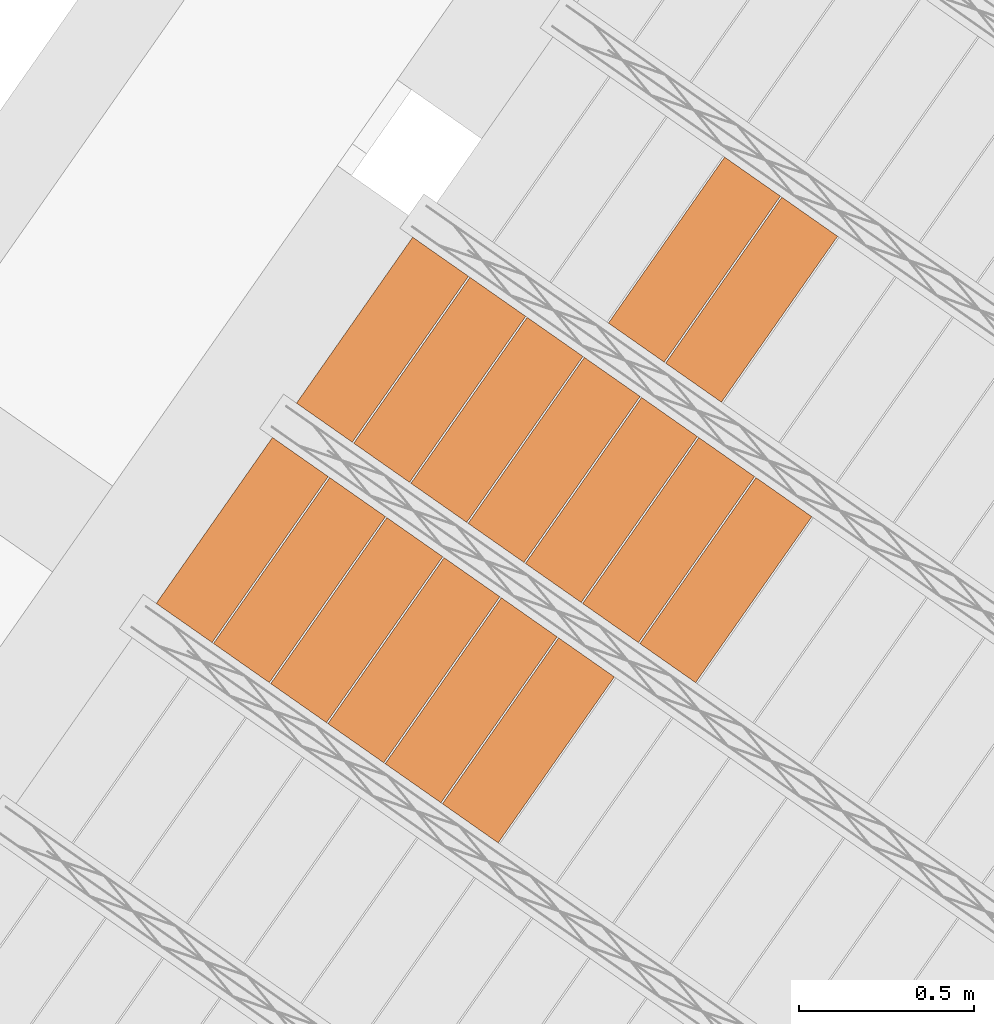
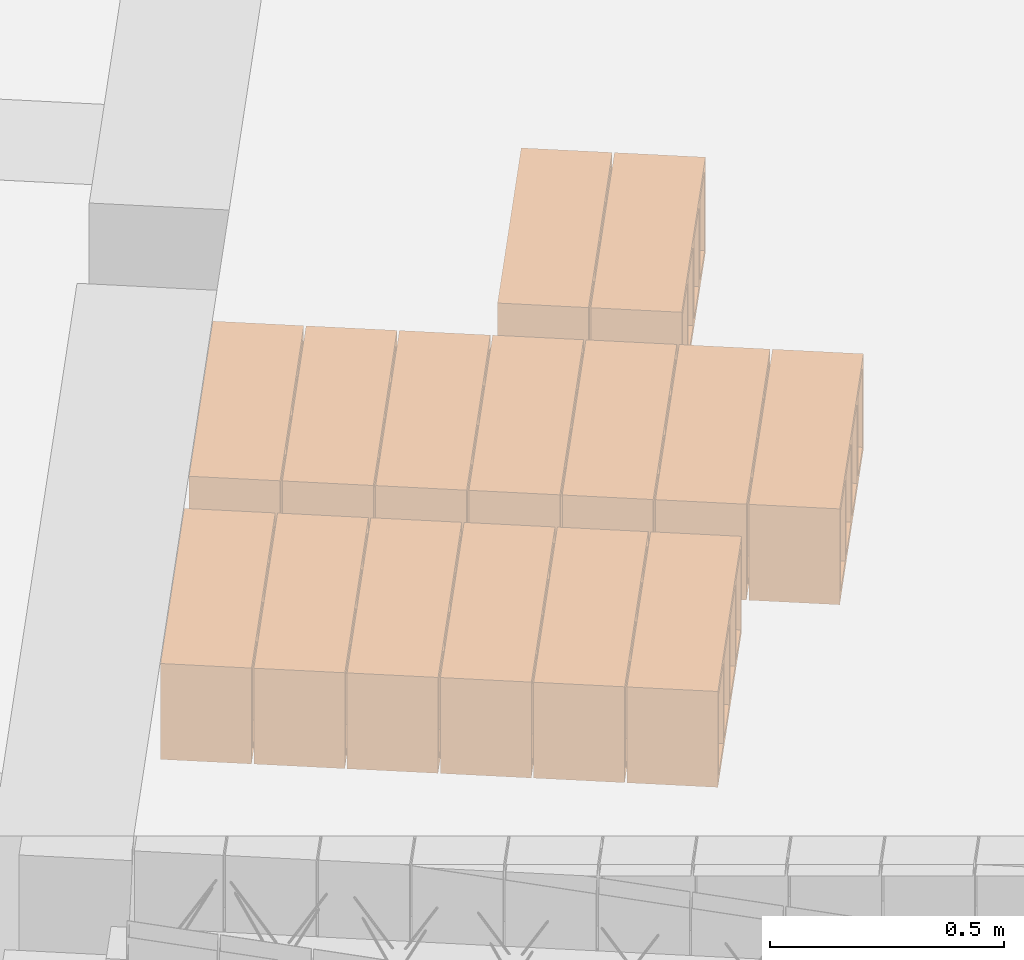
# One storey, part 36 of 46: 15 proxies.
"""IFC2X3 building model written with IfcOpenShell, lengths in metres."""

import ifcopenshell
import ifcopenshell.guid

model = None  # the IFC model being written
_history = None  # IfcOwnerHistory: only IFC2X3 demands one
_inside = {}  # id of a spatial element -> (the spatial element, [elements in it])
_under = {}  # id of a project, library or spatial element -> (it, [spatial elements below it])
_declared = {}  # id of a project -> (the project, [libraries it declares])
_typed = {}  # id of a type object -> (the type object, [elements of that type])
_made_of = {}  # id of a material, layer set ... -> (it, [elements and type objects made of it])


def new_model(schema):
    """Start an empty IFC model of exactly this schema.

    Asked for "IFC4X3", IfcOpenShell would pick the latest addendum, in which some entities
    have other attributes; the version numbers below select the first issue.
    IFC2X3 requires an IfcOwnerHistory on every rooted entity: one is made here for all.
    """
    global model, _history
    if schema == "IFC4X3":
        model = ifcopenshell.file(schema_version=(4, 3, 0, 0))
    else:
        model = ifcopenshell.file(schema=schema)
    _inside.clear()
    _under.clear()
    _declared.clear()
    _typed.clear()
    _made_of.clear()
    _history = None
    if model.schema == "IFC2X3":
        org = make("IfcOrganization", Name="unknown")
        user = make(
            "IfcPersonAndOrganization",
            ThePerson=make("IfcPerson", FamilyName="unknown"),
            TheOrganization=org,
        )
        app = make(
            "IfcApplication",
            ApplicationDeveloper=org,
            Version="unknown",
            ApplicationFullName="unknown",
            ApplicationIdentifier="unknown",
        )
        _history = make(
            "IfcOwnerHistory",
            OwningUser=user,
            OwningApplication=app,
            ChangeAction="ADDED",
            CreationDate=0,
        )
    return model


def make(cls, **values):
    """One entity of the class cls with the attributes given. An attribute that is None is left unset."""
    return model.create_entity(
        cls, **{name: value for name, value in values.items() if value is not None}
    )


def entity(cls, *values):
    """Any entity or typed value of the class cls, its attributes in the order of the schema. None: left unset."""
    e = model.create_entity(cls)
    for i, value in enumerate(values):
        if value is not None:
            e[i] = value
    return e


def rooted(cls, **values):
    """An entity with a GlobalId (a new one), such as an element, a storey or a relation."""
    return make(cls, GlobalId=ifcopenshell.guid.new(), OwnerHistory=_history, **values)


def si_unit(unit_type, name, prefix=None):
    """IfcSIUnit, for example si_unit("LENGTHUNIT", "METRE", prefix="MILLI")."""
    return make("IfcSIUnit", UnitType=unit_type, Prefix=prefix, Name=name)


def converted_unit(unit_type, name, factor, base, dimensions=None, offset=None):
    """IfcConversionBasedUnit, such as the inch: factor (a typed value) times the base unit."""
    return make(
        "IfcConversionBasedUnit"
        if offset is None
        else "IfcConversionBasedUnitWithOffset",
        ConversionOffset=offset,
        Dimensions=None
        if dimensions is None
        else entity("IfcDimensionalExponents", *dimensions),
        UnitType=unit_type,
        Name=name,
        ConversionFactor=make(
            "IfcMeasureWithUnit", ValueComponent=factor, UnitComponent=base
        ),
    )


def derived_unit(unit_type, elements):
    """IfcDerivedUnit: a product of units, each with its exponent."""
    return make(
        "IfcDerivedUnit",
        Elements=[
            make("IfcDerivedUnitElement", Unit=unit, Exponent=power)
            for unit, power in elements
        ],
        UnitType=unit_type,
    )


def assignment(units):
    """IfcUnitAssignment: the units of a project."""
    return None if units is None else make("IfcUnitAssignment", Units=units)


def point(xyz):
    """IfcCartesianPoint."""
    return None if xyz is None else make("IfcCartesianPoint", Coordinates=xyz)


def direction(xyz):
    """IfcDirection."""
    return None if xyz is None else make("IfcDirection", DirectionRatios=xyz)


def frame(location, z_axis=None, x_axis=None):
    """IfcAxis2Placement3D, a coordinate frame: its origin and axes. An axis left out is left unset."""
    return make(
        "IfcAxis2Placement3D",
        Location=point(location),
        Axis=direction(z_axis),
        RefDirection=direction(x_axis),
    )


def origin():
    """The frame at (0, 0, 0) with its axes left unset."""
    return frame((0.0, 0.0, 0.0))


def place(relative_to, where):
    """IfcLocalPlacement: puts the frame where relative to a parent placement (None: the world)."""
    return make(
        "IfcLocalPlacement", PlacementRelTo=relative_to, RelativePlacement=where
    )


def context(
    kind, dimensions, precision=None, world=None, true_north=None, identifier=None
):
    """IfcGeometricRepresentationContext, for example the 3D "Model" context."""
    return make(
        "IfcGeometricRepresentationContext",
        ContextIdentifier=identifier,
        ContextType=kind,
        CoordinateSpaceDimension=dimensions,
        Precision=precision,
        WorldCoordinateSystem=world,
        TrueNorth=true_north,
    )


def subcontext(parent, identifier, kind, view, scale=None):
    """IfcGeometricRepresentationSubContext, for example "Body" below "Model"."""
    return make(
        "IfcGeometricRepresentationSubContext",
        ContextIdentifier=identifier,
        ContextType=kind,
        ParentContext=parent,
        TargetScale=scale,
        TargetView=view,
    )


def project(units=None, contexts=None):
    """IfcProject with its units and contexts."""
    return rooted(
        "IfcProject",
        Name="project",
        RepresentationContexts=contexts,
        UnitsInContext=assignment(units),
    )


def spatial(cls, under=None, at=None, **own):
    """A site, building, storey or space (cls), placed at a placement, below another one or the project."""
    s = rooted(cls, ObjectPlacement=at, **own)
    if under is not None:
        _under.setdefault(under.id(), (under, []))[1].append(s)
    return s


def polyline(points):
    """IfcPolyline through the points."""
    return make("IfcPolyline", Points=[point(p) for p in points])


def outline(outer, holes=None, kind="AREA"):
    """IfcArbitraryClosedProfileDef: a profile drawn as a closed curve; with holes, ...WithVoids."""
    if holes is None:
        return make("IfcArbitraryClosedProfileDef", ProfileType=kind, OuterCurve=outer)
    return make(
        "IfcArbitraryProfileDefWithVoids",
        ProfileType=kind,
        OuterCurve=outer,
        InnerCurves=holes,
    )


def extrude(swept, where, along, depth):
    """IfcExtrudedAreaSolid: the profile swept, set in the frame where, extruded along a direction by depth."""
    return make(
        "IfcExtrudedAreaSolid",
        SweptArea=swept,
        Position=where,
        ExtrudedDirection=direction(along),
        Depth=depth,
    )


def shape(context_of_items, identifier, shape_type, items):
    """IfcShapeRepresentation: the items that make up one representation, for example the "Body"."""
    return make(
        "IfcShapeRepresentation",
        ContextOfItems=context_of_items,
        RepresentationIdentifier=identifier,
        RepresentationType=shape_type,
        Items=items,
    )


def made_of(thing, what):
    """Note that an element or type object is made of a material, layer set ...; save() writes the relation."""
    if what is not None:
        _made_of.setdefault(what.id(), (what, []))[1].append(thing)
    return thing


def type_object(cls, material=None, **own):
    """A type object (cls), such as IfcWallType, which elements share."""
    return made_of(rooted(cls, **own), material)


def element(
    cls,
    number,
    at=None,
    inside=None,
    cuts=None,
    type_object=None,
    material=None,
    context=None,
    identifier="Body",
    shape_type=None,
    held_by="IfcProductDefinitionShape",
    body=None,
    shapes=None,
    **own,
):
    """One element of the class cls, such as IfcWall. Its Tag is "e" and its number.

    at: its placement. inside: the storey or other place that contains it. cuts: it is an
    opening in that element (IfcRelVoidsElement). A single representation is given by context,
    identifier, shape_type and body (its items); several are given by shapes. held_by: the class
    of the entity that holds the representations. save() writes the other relations.
    """
    e = rooted(cls, Tag="e%d" % number, ObjectPlacement=at, **own)
    if body is not None:
        shapes = [shape(context, identifier, shape_type, body)]
    if shapes is not None:
        e.Representation = make(held_by, Representations=shapes)
    if inside is not None:
        _inside.setdefault(inside.id(), (inside, []))[1].append(e)
    if cuts is not None:
        rooted(
            "IfcRelVoidsElement", RelatingBuildingElement=cuts, RelatedOpeningElement=e
        )
    if type_object is not None:
        _typed.setdefault(type_object.id(), (type_object, []))[1].append(e)
    return made_of(e, material)


def aggregate(whole, parts):
    """IfcRelAggregates: a whole, such as a stair, and the parts it consists of."""
    return rooted("IfcRelAggregates", RelatingObject=whole, RelatedObjects=parts)


def save(model, path):
    """Write the relations noted so far, then the file.

    IfcRelAggregates (storeys below a building ...), IfcRelContainedInSpatialStructure (elements
    in a storey), IfcRelDefinesByType, IfcRelAssociatesMaterial and IfcRelDeclares: one each for
    every whole, place, type object, material and project.
    """
    for whole, parts in _under.values():
        aggregate(whole, parts)
    for where, things in _inside.values():
        rooted(
            "IfcRelContainedInSpatialStructure",
            RelatedElements=things,
            RelatingStructure=where,
        )
    for kind, things in _typed.values():
        rooted("IfcRelDefinesByType", RelatedObjects=things, RelatingType=kind)
    for what, things in _made_of.values():
        rooted("IfcRelAssociatesMaterial", RelatedObjects=things, RelatingMaterial=what)
    for by, libraries in _declared.values():
        rooted("IfcRelDeclares", RelatingContext=by, RelatedDefinitions=libraries)
    model.write(path)


model = new_model("IFC2X3")

# Units and contexts
model_context = context("Model", 3, precision=1e-05, world=origin(), true_north=direction((6.123031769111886e-17, 1.0)))
body_context = subcontext(model_context, "Body", "Model", "MODEL_VIEW")
ifc_project = project(units=[si_unit("LENGTHUNIT", "METRE"), si_unit("AREAUNIT", "SQUARE_METRE"), si_unit("VOLUMEUNIT", "CUBIC_METRE"), converted_unit("PLANEANGLEUNIT", "DEGREE", entity("IfcPlaneAngleMeasure", 0.017453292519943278), si_unit("PLANEANGLEUNIT", "RADIAN"), dimensions=[0, 0, 0, 0, 0, 0, 0]), si_unit("MASSUNIT", "GRAM", prefix="KILO"), derived_unit("MASSDENSITYUNIT", [(si_unit("MASSUNIT", "GRAM", prefix="KILO"), 1), (si_unit("LENGTHUNIT", "METRE"), -3)]), derived_unit("IONCONCENTRATIONUNIT", [(si_unit("MASSUNIT", "GRAM", prefix="KILO"), 1), (si_unit("LENGTHUNIT", "METRE"), -3)]), derived_unit("MOMENTOFINERTIAUNIT", [(si_unit("LENGTHUNIT", "METRE"), 4)]), si_unit("TIMEUNIT", "SECOND"), si_unit("FREQUENCYUNIT", "HERTZ"), si_unit("THERMODYNAMICTEMPERATUREUNIT", "DEGREE_CELSIUS"), derived_unit("THERMALTRANSMITTANCEUNIT", [(si_unit("MASSUNIT", "GRAM", prefix="KILO"), 1), (si_unit("THERMODYNAMICTEMPERATUREUNIT", "KELVIN"), -1), (si_unit("TIMEUNIT", "SECOND"), -3)]), derived_unit("THERMALCONDUCTANCEUNIT", [(si_unit("MASSUNIT", "GRAM", prefix="KILO"), 1), (si_unit("THERMODYNAMICTEMPERATUREUNIT", "KELVIN"), -1), (si_unit("TIMEUNIT", "SECOND"), -3), (si_unit("LENGTHUNIT", "METRE"), 1)]), derived_unit("VOLUMETRICFLOWRATEUNIT", [(si_unit("LENGTHUNIT", "METRE", prefix="DECI"), 3), (si_unit("TIMEUNIT", "SECOND"), -1)]), derived_unit("MASSFLOWRATEUNIT", [(si_unit("MASSUNIT", "GRAM", prefix="KILO"), 1), (si_unit("TIMEUNIT", "SECOND"), -1)]), derived_unit("ROTATIONALFREQUENCYUNIT", [(si_unit("TIMEUNIT", "SECOND"), -1)]), si_unit("ELECTRICCURRENTUNIT", "AMPERE"), si_unit("ELECTRICVOLTAGEUNIT", "VOLT"), si_unit("POWERUNIT", "WATT"), si_unit("FORCEUNIT", "NEWTON", prefix="KILO"), si_unit("ILLUMINANCEUNIT", "LUX"), si_unit("LUMINOUSFLUXUNIT", "LUMEN"), si_unit("LUMINOUSINTENSITYUNIT", "CANDELA"), si_unit("ENERGYUNIT", "JOULE"), derived_unit("USERDEFINED", [(si_unit("MASSUNIT", "GRAM", prefix="KILO"), -1), (si_unit("LENGTHUNIT", "METRE"), -2), (si_unit("TIMEUNIT", "SECOND"), 3), (si_unit("LUMINOUSFLUXUNIT", "LUMEN"), 1)]), derived_unit("USERDEFINED", [(si_unit("MASSUNIT", "GRAM", prefix="KILO"), 1), (si_unit("TIMEUNIT", "SECOND"), -3), (si_unit("LENGTHUNIT", "METRE"), 3), (si_unit("ELECTRICCURRENTUNIT", "AMPERE"), -2)]), derived_unit("SOUNDPOWERUNIT", [(si_unit("MASSUNIT", "GRAM", prefix="KILO"), 1), (si_unit("TIMEUNIT", "SECOND"), -3), (si_unit("LENGTHUNIT", "METRE"), 2)]), derived_unit("SOUNDPRESSUREUNIT", [(si_unit("MASSUNIT", "GRAM", prefix="KILO"), 1), (si_unit("LENGTHUNIT", "METRE"), -1), (si_unit("TIMEUNIT", "SECOND"), -2)]), derived_unit("LINEARVELOCITYUNIT", [(si_unit("LENGTHUNIT", "METRE"), 1), (si_unit("TIMEUNIT", "SECOND"), -1)]), si_unit("PRESSUREUNIT", "PASCAL"), derived_unit("USERDEFINED", [(si_unit("MASSUNIT", "GRAM", prefix="KILO"), 1), (si_unit("LENGTHUNIT", "METRE"), -2), (si_unit("TIMEUNIT", "SECOND"), -2)]), derived_unit("LINEARFORCEUNIT", [(si_unit("MASSUNIT", "GRAM", prefix="KILO"), 1), (si_unit("TIMEUNIT", "SECOND"), -2)]), derived_unit("PLANARFORCEUNIT", [(si_unit("MASSUNIT", "GRAM", prefix="KILO"), 1), (si_unit("LENGTHUNIT", "METRE"), -1), (si_unit("TIMEUNIT", "SECOND"), -2)]), derived_unit("SPECIFICHEATCAPACITYUNIT", [(si_unit("THERMODYNAMICTEMPERATUREUNIT", "KELVIN"), -1), (si_unit("LENGTHUNIT", "METRE"), 2), (si_unit("TIMEUNIT", "SECOND"), -2)]), derived_unit("HEATFLUXDENSITYUNIT", [(si_unit("MASSUNIT", "GRAM", prefix="KILO"), 1), (si_unit("TIMEUNIT", "SECOND"), -3)]), derived_unit("HEATINGVALUEUNIT", [(si_unit("LENGTHUNIT", "METRE"), 2), (si_unit("TIMEUNIT", "SECOND"), -2)]), derived_unit("VAPORPERMEABILITYUNIT", [(si_unit("LENGTHUNIT", "METRE"), -1), (si_unit("TIMEUNIT", "SECOND"), 1)]), derived_unit("DYNAMICVISCOSITYUNIT", [(si_unit("MASSUNIT", "GRAM", prefix="KILO"), 1), (si_unit("TIMEUNIT", "SECOND"), -1), (si_unit("LENGTHUNIT", "METRE"), -1)]), derived_unit("THERMALEXPANSIONCOEFFICIENTUNIT", [(si_unit("THERMODYNAMICTEMPERATUREUNIT", "KELVIN"), -1)]), derived_unit("MODULUSOFELASTICITYUNIT", [(si_unit("MASSUNIT", "GRAM", prefix="KILO"), 1), (si_unit("LENGTHUNIT", "METRE"), -1), (si_unit("TIMEUNIT", "SECOND"), -2)]), derived_unit("ISOTHERMALMOISTURECAPACITYUNIT", [(si_unit("MASSUNIT", "GRAM", prefix="KILO"), -1), (si_unit("LENGTHUNIT", "METRE"), 3)]), derived_unit("MOISTUREDIFFUSIVITYUNIT", [(si_unit("TIMEUNIT", "SECOND"), -1), (si_unit("LENGTHUNIT", "METRE"), 2)]), derived_unit("MASSPERLENGTHUNIT", [(si_unit("MASSUNIT", "GRAM", prefix="KILO"), 1), (si_unit("LENGTHUNIT", "METRE"), -1)]), derived_unit("THERMALRESISTANCEUNIT", [(si_unit("MASSUNIT", "GRAM", prefix="KILO"), -1), (si_unit("TIMEUNIT", "SECOND"), 3), (si_unit("THERMODYNAMICTEMPERATUREUNIT", "KELVIN"), 1)]), derived_unit("ACCELERATIONUNIT", [(si_unit("LENGTHUNIT", "METRE"), 1), (si_unit("TIMEUNIT", "SECOND"), -2)]), derived_unit("ANGULARVELOCITYUNIT", [(si_unit("TIMEUNIT", "SECOND"), -1), (si_unit("PLANEANGLEUNIT", "RADIAN"), 1)]), derived_unit("LINEARSTIFFNESSUNIT", [(si_unit("MASSUNIT", "GRAM", prefix="KILO"), 1), (si_unit("TIMEUNIT", "SECOND"), -2)]), derived_unit("WARPINGCONSTANTUNIT", [(si_unit("LENGTHUNIT", "METRE"), 6)]), derived_unit("LINEARMOMENTUNIT", [(si_unit("MASSUNIT", "GRAM", prefix="KILO"), 1), (si_unit("LENGTHUNIT", "METRE"), 1), (si_unit("TIMEUNIT", "SECOND"), -2)]), derived_unit("TORQUEUNIT", [(si_unit("MASSUNIT", "GRAM", prefix="KILO"), 1), (si_unit("LENGTHUNIT", "METRE"), 2), (si_unit("TIMEUNIT", "SECOND"), -2)])], contexts=[model_context])

# Site, building, storey
site_placement = place(None, origin())
site = spatial("IfcSite", under=ifc_project, at=site_placement, Name="Default", CompositionType="ELEMENT")
building_placement = place(site_placement, origin())
building = spatial("IfcBuilding", under=site, at=building_placement, CompositionType="ELEMENT")
storey_placement = place(building_placement, frame((0.0, 0.0, 99.52000000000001)))
storey = spatial("IfcBuildingStorey", under=building, at=storey_placement, Name="F1", CompositionType="ELEMENT", Elevation=99.52000000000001)

# Proxies
building_element_proxy_type_1 = type_object("IfcBuildingElementProxyType", Name="Bovedilla 4-11 (Paño 4)", PredefinedType="USERDEFINED")
proxy_1_placement = place(storey_placement, origin())
element("IfcBuildingElementProxy", 1, at=proxy_1_placement, inside=storey, type_object=building_element_proxy_type_1, Name="Bovedilla 4-11 (Paño 4)", ObjectType="FORM", context=body_context, shape_type="SweptSolid", body=[
    extrude(outline(polyline([(-0.2899999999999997, -0.12500000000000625), (0.29, -0.12500000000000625), (0.29, 0.12500000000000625), (-0.2899999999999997, 0.12500000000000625), (-0.2899999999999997, -0.12500000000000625)]), holes=[polyline([(0.27000000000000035, -0.10499999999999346), (0.15500000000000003, -0.10499999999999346), (0.15500000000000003, 0.10499999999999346), (0.27000000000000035, 0.10499999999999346), (0.27000000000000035, 0.042499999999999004), (0.27000000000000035, -0.10499999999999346)]), polyline([(0.009999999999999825, -0.10499999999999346), (0.009999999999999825, 0.10499999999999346), (0.13500000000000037, 0.10499999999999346), (0.13500000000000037, -0.10499999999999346), (0.009999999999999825, -0.10499999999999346)]), polyline([(-0.13500000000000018, 0.10499999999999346), (-0.009999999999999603, 0.10499999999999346), (-0.009999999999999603, -0.10499999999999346), (-0.13500000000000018, -0.10499999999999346), (-0.13500000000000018, 0.10499999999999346)]), polyline([(-0.27000000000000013, -0.10499999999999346), (-0.27000000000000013, 0.042499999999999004), (-0.27000000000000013, 0.10499999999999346), (-0.1549999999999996, 0.10499999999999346), (-0.1549999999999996, -0.10499999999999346), (-0.27000000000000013, -0.10499999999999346)])]), frame((6.716695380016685, -2.3832645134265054, 0.3249999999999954), z_axis=(0.8191520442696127, -0.5735764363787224, 0.0), x_axis=(-0.5735764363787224, -0.8191520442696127, 0.0)), (0.0, 0.0, 1.0), 0.19499999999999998),
])
building_element_proxy_type_2 = type_object("IfcBuildingElementProxyType", Name="Bovedilla 4-12 (Paño 4)", PredefinedType="USERDEFINED")
proxy_2_placement = place(storey_placement, origin())
element("IfcBuildingElementProxy", 2, at=proxy_2_placement, inside=storey, type_object=building_element_proxy_type_2, Name="Bovedilla 4-12 (Paño 4)", ObjectType="FORM", context=body_context, shape_type="SweptSolid", body=[
    extrude(outline(polyline([(-0.2899999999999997, -0.12500000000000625), (0.29, -0.12500000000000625), (0.29, 0.12500000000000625), (-0.2899999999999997, 0.12500000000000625), (-0.2899999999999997, -0.12500000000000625)]), holes=[polyline([(0.27000000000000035, -0.10499999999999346), (0.15499999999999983, -0.10499999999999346), (0.15499999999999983, 0.10499999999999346), (0.27000000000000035, 0.10499999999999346), (0.27000000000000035, 0.042499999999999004), (0.27000000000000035, -0.10499999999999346)]), polyline([(0.009999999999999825, -0.10499999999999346), (0.009999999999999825, 0.10499999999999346), (0.13500000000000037, 0.10499999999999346), (0.13500000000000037, -0.10499999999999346), (0.009999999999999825, -0.10499999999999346)]), polyline([(-0.13500000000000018, 0.10499999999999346), (-0.009999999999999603, 0.10499999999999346), (-0.009999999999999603, -0.10499999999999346), (-0.13500000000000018, -0.10499999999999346), (-0.13500000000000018, 0.10499999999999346)]), polyline([(-0.27000000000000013, -0.10499999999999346), (-0.27000000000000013, 0.042499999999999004), (-0.27000000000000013, 0.10499999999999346), (-0.1549999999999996, 0.10499999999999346), (-0.1549999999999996, -0.10499999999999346), (-0.27000000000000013, -0.10499999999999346)])]), frame((6.552864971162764, -2.26854922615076, 0.3249999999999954), z_axis=(0.8191520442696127, -0.5735764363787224, 0.0), x_axis=(-0.5735764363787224, -0.8191520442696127, 0.0)), (0.0, 0.0, 1.0), 0.19499999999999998),
])
building_element_proxy_type_3 = type_object("IfcBuildingElementProxyType", Name="Bovedilla 4-13 (Paño 4)", PredefinedType="USERDEFINED")
proxy_3_placement = place(storey_placement, origin())
element("IfcBuildingElementProxy", 3, at=proxy_3_placement, inside=storey, type_object=building_element_proxy_type_3, Name="Bovedilla 4-13 (Paño 4)", ObjectType="FORM", context=body_context, shape_type="SweptSolid", body=[
    extrude(outline(polyline([(-0.29, -0.12500000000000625), (0.29, -0.12500000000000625), (0.29, 0.12500000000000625), (-0.29, 0.12500000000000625), (-0.29, -0.12500000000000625)]), holes=[polyline([(0.27000000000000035, -0.10499999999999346), (0.15499999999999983, -0.10499999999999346), (0.15499999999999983, 0.10499999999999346), (0.27000000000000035, 0.10499999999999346), (0.27000000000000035, 0.042499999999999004), (0.27000000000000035, -0.10499999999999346)]), polyline([(0.009999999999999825, -0.10499999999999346), (0.009999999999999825, 0.10499999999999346), (0.13500000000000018, 0.10499999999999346), (0.13500000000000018, -0.10499999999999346), (0.009999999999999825, -0.10499999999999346)]), polyline([(-0.13500000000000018, 0.10499999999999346), (-0.009999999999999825, 0.10499999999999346), (-0.009999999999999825, -0.10499999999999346), (-0.13500000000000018, -0.10499999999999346), (-0.13500000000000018, 0.10499999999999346)]), polyline([(-0.27000000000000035, -0.10499999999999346), (-0.27000000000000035, 0.042499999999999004), (-0.27000000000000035, 0.10499999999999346), (-0.15499999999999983, 0.10499999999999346), (-0.15499999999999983, -0.10499999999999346), (-0.27000000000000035, -0.10499999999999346)])]), frame((6.38903456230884, -2.153833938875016, 0.3249999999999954), z_axis=(0.819152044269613, -0.5735764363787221, 0.0), x_axis=(-0.5735764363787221, -0.819152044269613, 0.0)), (0.0, 0.0, 1.0), 0.19499999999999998),
])
building_element_proxy_type_4 = type_object("IfcBuildingElementProxyType", Name="Bovedilla 4-14 (Paño 4)", PredefinedType="USERDEFINED")
proxy_4_placement = place(storey_placement, origin())
element("IfcBuildingElementProxy", 4, at=proxy_4_placement, inside=storey, type_object=building_element_proxy_type_4, Name="Bovedilla 4-14 (Paño 4)", ObjectType="FORM", context=body_context, shape_type="SweptSolid", body=[
    extrude(outline(polyline([(-0.29, -0.12500000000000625), (0.29, -0.12500000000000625), (0.29, 0.12500000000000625), (-0.29, 0.12500000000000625), (-0.29, -0.12500000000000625)]), holes=[polyline([(0.27000000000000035, -0.10499999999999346), (0.15499999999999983, -0.10499999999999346), (0.15499999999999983, 0.10499999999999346), (0.27000000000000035, 0.10499999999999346), (0.27000000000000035, 0.042499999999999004), (0.27000000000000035, -0.10499999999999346)]), polyline([(0.009999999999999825, -0.10499999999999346), (0.009999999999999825, 0.10499999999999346), (0.13500000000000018, 0.10499999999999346), (0.13500000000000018, -0.10499999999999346), (0.009999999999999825, -0.10499999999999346)]), polyline([(-0.13500000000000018, 0.10499999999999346), (-0.009999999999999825, 0.10499999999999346), (-0.009999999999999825, -0.10499999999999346), (-0.13500000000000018, -0.10499999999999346), (-0.13500000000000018, 0.10499999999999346)]), polyline([(-0.27000000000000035, -0.10499999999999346), (-0.27000000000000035, 0.042499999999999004), (-0.27000000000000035, 0.10499999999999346), (-0.15499999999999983, 0.10499999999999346), (-0.15499999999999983, -0.10499999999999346), (-0.27000000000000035, -0.10499999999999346)])]), frame((6.225204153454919, -2.0391186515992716, 0.3249999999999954), z_axis=(0.819152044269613, -0.5735764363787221, 0.0), x_axis=(-0.5735764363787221, -0.819152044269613, 0.0)), (0.0, 0.0, 1.0), 0.19499999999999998),
])
building_element_proxy_type_5 = type_object("IfcBuildingElementProxyType", Name="Bovedilla 4-15 (Paño 4)", PredefinedType="USERDEFINED")
proxy_5_placement = place(storey_placement, origin())
element("IfcBuildingElementProxy", 5, at=proxy_5_placement, inside=storey, type_object=building_element_proxy_type_5, Name="Bovedilla 4-15 (Paño 4)", ObjectType="FORM", context=body_context, shape_type="SweptSolid", body=[
    extrude(outline(polyline([(-0.29, -0.12500000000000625), (0.29, -0.12500000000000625), (0.29, 0.12500000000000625), (-0.29, 0.12500000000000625), (-0.29, -0.12500000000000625)]), holes=[polyline([(0.27000000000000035, -0.10499999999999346), (0.15499999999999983, -0.10499999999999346), (0.15499999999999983, 0.10499999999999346), (0.27000000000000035, 0.10499999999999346), (0.27000000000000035, 0.042499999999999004), (0.27000000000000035, -0.10499999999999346)]), polyline([(0.009999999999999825, -0.10499999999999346), (0.009999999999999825, 0.10499999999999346), (0.13500000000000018, 0.10499999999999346), (0.13500000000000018, -0.10499999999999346), (0.009999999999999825, -0.10499999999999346)]), polyline([(-0.13500000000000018, 0.10499999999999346), (-0.009999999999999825, 0.10499999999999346), (-0.009999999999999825, -0.10499999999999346), (-0.13500000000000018, -0.10499999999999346), (-0.13500000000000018, 0.10499999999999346)]), polyline([(-0.27000000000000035, -0.10499999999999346), (-0.27000000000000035, 0.042499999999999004), (-0.27000000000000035, 0.10499999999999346), (-0.15499999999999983, 0.10499999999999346), (-0.15499999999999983, -0.10499999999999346), (-0.27000000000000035, -0.10499999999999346)])]), frame((6.061373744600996, -1.9244033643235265, 0.3249999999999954), z_axis=(0.819152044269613, -0.5735764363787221, 0.0), x_axis=(-0.5735764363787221, -0.819152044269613, 0.0)), (0.0, 0.0, 1.0), 0.19499999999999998),
])
building_element_proxy_type_6 = type_object("IfcBuildingElementProxyType", Name="Bovedilla 4-16 (Paño 4)", PredefinedType="USERDEFINED")
proxy_6_placement = place(storey_placement, origin())
element("IfcBuildingElementProxy", 6, at=proxy_6_placement, inside=storey, type_object=building_element_proxy_type_6, Name="Bovedilla 4-16 (Paño 4)", ObjectType="FORM", context=body_context, shape_type="SweptSolid", body=[
    extrude(outline(polyline([(-0.29, -0.12500000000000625), (0.29, -0.12500000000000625), (0.29, 0.12500000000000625), (-0.29, 0.12500000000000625), (-0.29, -0.12500000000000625)]), holes=[polyline([(0.27000000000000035, -0.10499999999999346), (0.15499999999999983, -0.10499999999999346), (0.15499999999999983, 0.10499999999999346), (0.27000000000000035, 0.10499999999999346), (0.27000000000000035, 0.042499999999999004), (0.27000000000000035, -0.10499999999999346)]), polyline([(0.009999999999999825, -0.10499999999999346), (0.009999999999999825, 0.10499999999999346), (0.13500000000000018, 0.10499999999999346), (0.13500000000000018, -0.10499999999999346), (0.009999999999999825, -0.10499999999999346)]), polyline([(-0.13500000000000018, 0.10499999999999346), (-0.009999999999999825, 0.10499999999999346), (-0.009999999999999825, -0.10499999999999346), (-0.13500000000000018, -0.10499999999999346), (-0.13500000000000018, 0.10499999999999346)]), polyline([(-0.27000000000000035, -0.10499999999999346), (-0.27000000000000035, 0.042499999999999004), (-0.27000000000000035, 0.10499999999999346), (-0.15499999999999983, 0.10499999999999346), (-0.15499999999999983, -0.10499999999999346), (-0.27000000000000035, -0.10499999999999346)])]), frame((5.897543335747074, -1.8096880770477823, 0.3249999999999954), z_axis=(0.819152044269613, -0.5735764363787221, 0.0), x_axis=(-0.5735764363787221, -0.819152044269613, 0.0)), (0.0, 0.0, 1.0), 0.19499999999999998),
])
building_element_proxy_type_7 = type_object("IfcBuildingElementProxyType", Name="Bovedilla 5-10 (Paño 4)", PredefinedType="USERDEFINED")
proxy_7_placement = place(storey_placement, origin())
element("IfcBuildingElementProxy", 7, at=proxy_7_placement, inside=storey, type_object=building_element_proxy_type_7, Name="Bovedilla 5-10 (Paño 4)", ObjectType="FORM", context=body_context, shape_type="SweptSolid", body=[
    extrude(outline(polyline([(-0.29, -0.12500000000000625), (0.29, -0.12500000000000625), (0.29, 0.12500000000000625), (-0.29, 0.12500000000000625), (-0.29, -0.12500000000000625)]), holes=[polyline([(0.27000000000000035, -0.10499999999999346), (0.15499999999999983, -0.10499999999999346), (0.15499999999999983, 0.10499999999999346), (0.27000000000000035, 0.10499999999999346), (0.27000000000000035, 0.042499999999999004), (0.27000000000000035, -0.10499999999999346)]), polyline([(0.009999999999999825, -0.10499999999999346), (0.009999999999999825, 0.10499999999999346), (0.13500000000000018, 0.10499999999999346), (0.13500000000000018, -0.10499999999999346), (0.009999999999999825, -0.10499999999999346)]), polyline([(-0.13500000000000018, 0.10499999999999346), (-0.009999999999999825, 0.10499999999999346), (-0.009999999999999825, -0.10499999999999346), (-0.13500000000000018, -0.10499999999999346), (-0.13500000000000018, 0.10499999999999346)]), polyline([(-0.27000000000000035, -0.10499999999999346), (-0.27000000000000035, 0.042499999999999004), (-0.27000000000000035, 0.10499999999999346), (-0.15499999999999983, 0.10499999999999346), (-0.15499999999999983, -0.10499999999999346), (-0.27000000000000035, -0.10499999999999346)])]), frame((7.282029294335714, -1.9245733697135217, 0.3249999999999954), z_axis=(0.819152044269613, -0.5735764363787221, 0.0), x_axis=(-0.5735764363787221, -0.819152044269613, 0.0)), (0.0, 0.0, 1.0), 0.19499999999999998),
])
building_element_proxy_type_8 = type_object("IfcBuildingElementProxyType", Name="Bovedilla 5-11 (Paño 4)", PredefinedType="USERDEFINED")
proxy_8_placement = place(storey_placement, origin())
element("IfcBuildingElementProxy", 8, at=proxy_8_placement, inside=storey, type_object=building_element_proxy_type_8, Name="Bovedilla 5-11 (Paño 4)", ObjectType="FORM", context=body_context, shape_type="SweptSolid", body=[
    extrude(outline(polyline([(-0.29, -0.12500000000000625), (0.29, -0.12500000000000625), (0.29, 0.12500000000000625), (-0.29, 0.12500000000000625), (-0.29, -0.12500000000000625)]), holes=[polyline([(0.27000000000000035, -0.10499999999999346), (0.15499999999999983, -0.10499999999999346), (0.15499999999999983, 0.10499999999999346), (0.27000000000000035, 0.10499999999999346), (0.27000000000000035, 0.042499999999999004), (0.27000000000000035, -0.10499999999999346)]), polyline([(0.009999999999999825, -0.10499999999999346), (0.009999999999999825, 0.10499999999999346), (0.13500000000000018, 0.10499999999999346), (0.13500000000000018, -0.10499999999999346), (0.009999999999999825, -0.10499999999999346)]), polyline([(-0.13500000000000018, 0.10499999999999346), (-0.009999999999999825, 0.10499999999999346), (-0.009999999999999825, -0.10499999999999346), (-0.13500000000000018, -0.10499999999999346), (-0.13500000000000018, 0.10499999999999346)]), polyline([(-0.27000000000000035, -0.10499999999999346), (-0.27000000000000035, 0.042499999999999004), (-0.27000000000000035, 0.10499999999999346), (-0.15499999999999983, 0.10499999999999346), (-0.15499999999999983, -0.10499999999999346), (-0.27000000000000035, -0.10499999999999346)])]), frame((7.118198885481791, -1.8098580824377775, 0.3249999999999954), z_axis=(0.819152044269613, -0.5735764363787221, 0.0), x_axis=(-0.5735764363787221, -0.819152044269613, 0.0)), (0.0, 0.0, 1.0), 0.19499999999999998),
])
building_element_proxy_type_9 = type_object("IfcBuildingElementProxyType", Name="Bovedilla 5-12 (Paño 4)", PredefinedType="USERDEFINED")
proxy_9_placement = place(storey_placement, origin())
element("IfcBuildingElementProxy", 9, at=proxy_9_placement, inside=storey, type_object=building_element_proxy_type_9, Name="Bovedilla 5-12 (Paño 4)", ObjectType="FORM", context=body_context, shape_type="SweptSolid", body=[
    extrude(outline(polyline([(-0.29, -0.12500000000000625), (0.29, -0.12500000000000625), (0.29, 0.12500000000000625), (-0.29, 0.12500000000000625), (-0.29, -0.12500000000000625)]), holes=[polyline([(0.27000000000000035, -0.10499999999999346), (0.15499999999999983, -0.10499999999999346), (0.15499999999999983, 0.10499999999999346), (0.27000000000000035, 0.10499999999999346), (0.27000000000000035, 0.042499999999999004), (0.27000000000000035, -0.10499999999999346)]), polyline([(0.009999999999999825, -0.10499999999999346), (0.009999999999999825, 0.10499999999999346), (0.13500000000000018, 0.10499999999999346), (0.13500000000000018, -0.10499999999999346), (0.009999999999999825, -0.10499999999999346)]), polyline([(-0.13500000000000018, 0.10499999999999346), (-0.009999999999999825, 0.10499999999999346), (-0.009999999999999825, -0.10499999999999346), (-0.13500000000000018, -0.10499999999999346), (-0.13500000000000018, 0.10499999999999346)]), polyline([(-0.27000000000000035, -0.10499999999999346), (-0.27000000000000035, 0.042499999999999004), (-0.27000000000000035, 0.10499999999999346), (-0.15499999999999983, 0.10499999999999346), (-0.15499999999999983, -0.10499999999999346), (-0.27000000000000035, -0.10499999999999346)])]), frame((6.954368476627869, -1.6951427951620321, 0.3249999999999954), z_axis=(0.819152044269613, -0.5735764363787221, 0.0), x_axis=(-0.5735764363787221, -0.819152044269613, 0.0)), (0.0, 0.0, 1.0), 0.19499999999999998),
])
building_element_proxy_type_10 = type_object("IfcBuildingElementProxyType", Name="Bovedilla 5-13 (Paño 4)", PredefinedType="USERDEFINED")
proxy_10_placement = place(storey_placement, origin())
element("IfcBuildingElementProxy", 10, at=proxy_10_placement, inside=storey, type_object=building_element_proxy_type_10, Name="Bovedilla 5-13 (Paño 4)", ObjectType="FORM", context=body_context, shape_type="SweptSolid", body=[
    extrude(outline(polyline([(-0.29, -0.12500000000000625), (0.29, -0.12500000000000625), (0.29, 0.12500000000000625), (-0.29, 0.12500000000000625), (-0.29, -0.12500000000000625)]), holes=[polyline([(0.27000000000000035, -0.10499999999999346), (0.15499999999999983, -0.10499999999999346), (0.15499999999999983, 0.10499999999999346), (0.27000000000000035, 0.10499999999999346), (0.27000000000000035, 0.042499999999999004), (0.27000000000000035, -0.10499999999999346)]), polyline([(0.009999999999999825, -0.10499999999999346), (0.009999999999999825, 0.10499999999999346), (0.13500000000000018, 0.10499999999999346), (0.13500000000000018, -0.10499999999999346), (0.009999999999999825, -0.10499999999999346)]), polyline([(-0.13500000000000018, 0.10499999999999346), (-0.009999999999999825, 0.10499999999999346), (-0.009999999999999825, -0.10499999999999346), (-0.13500000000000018, -0.10499999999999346), (-0.13500000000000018, 0.10499999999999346)]), polyline([(-0.27000000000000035, -0.10499999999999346), (-0.27000000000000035, 0.042499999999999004), (-0.27000000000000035, 0.10499999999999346), (-0.15499999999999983, 0.10499999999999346), (-0.15499999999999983, -0.10499999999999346), (-0.27000000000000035, -0.10499999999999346)])]), frame((6.790538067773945, -1.5804275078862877, 0.3249999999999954), z_axis=(0.819152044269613, -0.5735764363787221, 0.0), x_axis=(-0.5735764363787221, -0.819152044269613, 0.0)), (0.0, 0.0, 1.0), 0.19499999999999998),
])
building_element_proxy_type_11 = type_object("IfcBuildingElementProxyType", Name="Bovedilla 5-14 (Paño 4)", PredefinedType="USERDEFINED")
proxy_11_placement = place(storey_placement, origin())
element("IfcBuildingElementProxy", 11, at=proxy_11_placement, inside=storey, type_object=building_element_proxy_type_11, Name="Bovedilla 5-14 (Paño 4)", ObjectType="FORM", context=body_context, shape_type="SweptSolid", body=[
    extrude(outline(polyline([(-0.29, -0.12500000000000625), (0.29, -0.12500000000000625), (0.29, 0.12500000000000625), (-0.29, 0.12500000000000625), (-0.29, -0.12500000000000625)]), holes=[polyline([(0.27000000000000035, -0.10499999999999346), (0.15499999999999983, -0.10499999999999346), (0.15499999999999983, 0.10499999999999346), (0.27000000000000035, 0.10499999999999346), (0.27000000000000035, 0.042499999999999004), (0.27000000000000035, -0.10499999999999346)]), polyline([(0.009999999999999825, -0.10499999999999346), (0.009999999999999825, 0.10499999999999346), (0.13500000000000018, 0.10499999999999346), (0.13500000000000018, -0.10499999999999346), (0.009999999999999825, -0.10499999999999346)]), polyline([(-0.13500000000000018, 0.10499999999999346), (-0.009999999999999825, 0.10499999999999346), (-0.009999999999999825, -0.10499999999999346), (-0.13500000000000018, -0.10499999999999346), (-0.13500000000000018, 0.10499999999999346)]), polyline([(-0.27000000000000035, -0.10499999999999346), (-0.27000000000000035, 0.042499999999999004), (-0.27000000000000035, 0.10499999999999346), (-0.15499999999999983, 0.10499999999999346), (-0.15499999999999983, -0.10499999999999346), (-0.27000000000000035, -0.10499999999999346)])]), frame((6.626707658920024, -1.4657122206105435, 0.3249999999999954), z_axis=(0.819152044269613, -0.5735764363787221, 0.0), x_axis=(-0.5735764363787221, -0.819152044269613, 0.0)), (0.0, 0.0, 1.0), 0.19499999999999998),
])
building_element_proxy_type_12 = type_object("IfcBuildingElementProxyType", Name="Bovedilla 5-15 (Paño 4)", PredefinedType="USERDEFINED")
proxy_12_placement = place(storey_placement, origin())
element("IfcBuildingElementProxy", 12, at=proxy_12_placement, inside=storey, type_object=building_element_proxy_type_12, Name="Bovedilla 5-15 (Paño 4)", ObjectType="FORM", context=body_context, shape_type="SweptSolid", body=[
    extrude(outline(polyline([(-0.29, -0.12500000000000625), (0.29, -0.12500000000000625), (0.29, 0.12500000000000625), (-0.29, 0.12500000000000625), (-0.29, -0.12500000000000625)]), holes=[polyline([(0.27000000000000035, -0.10499999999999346), (0.15499999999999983, -0.10499999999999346), (0.15499999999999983, 0.10499999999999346), (0.27000000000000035, 0.10499999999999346), (0.27000000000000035, 0.042499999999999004), (0.27000000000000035, -0.10499999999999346)]), polyline([(0.009999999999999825, -0.10499999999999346), (0.009999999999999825, 0.10499999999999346), (0.13500000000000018, 0.10499999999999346), (0.13500000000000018, -0.10499999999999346), (0.009999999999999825, -0.10499999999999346)]), polyline([(-0.13500000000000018, 0.10499999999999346), (-0.009999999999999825, 0.10499999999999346), (-0.009999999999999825, -0.10499999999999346), (-0.13500000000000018, -0.10499999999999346), (-0.13500000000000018, 0.10499999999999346)]), polyline([(-0.27000000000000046, -0.10499999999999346), (-0.27000000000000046, 0.042499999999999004), (-0.27000000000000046, 0.10499999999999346), (-0.15499999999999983, 0.10499999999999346), (-0.15499999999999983, -0.10499999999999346), (-0.27000000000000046, -0.10499999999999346)])]), frame((6.4628772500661, -1.3509969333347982, 0.3249999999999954), z_axis=(0.819152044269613, -0.5735764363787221, 0.0), x_axis=(-0.5735764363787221, -0.819152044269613, 0.0)), (0.0, 0.0, 1.0), 0.19499999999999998),
])
building_element_proxy_type_13 = type_object("IfcBuildingElementProxyType", Name="Bovedilla 5-16 (Paño 4)", PredefinedType="USERDEFINED")
proxy_13_placement = place(storey_placement, origin())
element("IfcBuildingElementProxy", 13, at=proxy_13_placement, inside=storey, type_object=building_element_proxy_type_13, Name="Bovedilla 5-16 (Paño 4)", ObjectType="FORM", context=body_context, shape_type="SweptSolid", body=[
    extrude(outline(polyline([(-0.29, -0.12500000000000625), (0.29, -0.12500000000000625), (0.29, 0.12500000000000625), (-0.29, 0.12500000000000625), (-0.29, -0.12500000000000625)]), holes=[polyline([(0.27000000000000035, -0.10499999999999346), (0.15499999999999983, -0.10499999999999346), (0.15499999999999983, 0.10499999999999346), (0.27000000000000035, 0.10499999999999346), (0.27000000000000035, 0.042499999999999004), (0.27000000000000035, -0.10499999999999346)]), polyline([(0.009999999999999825, -0.10499999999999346), (0.009999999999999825, 0.10499999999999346), (0.13500000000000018, 0.10499999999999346), (0.13500000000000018, -0.10499999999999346), (0.009999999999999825, -0.10499999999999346)]), polyline([(-0.1350000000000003, 0.10499999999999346), (-0.009999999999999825, 0.10499999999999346), (-0.009999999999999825, -0.10499999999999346), (-0.1350000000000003, -0.10499999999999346), (-0.1350000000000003, 0.10499999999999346)]), polyline([(-0.27000000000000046, -0.10499999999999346), (-0.27000000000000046, 0.042499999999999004), (-0.27000000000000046, 0.10499999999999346), (-0.15499999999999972, 0.10499999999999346), (-0.15499999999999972, -0.10499999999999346), (-0.27000000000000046, -0.10499999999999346)])]), frame((6.299046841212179, -1.236281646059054, 0.3249999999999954), z_axis=(0.819152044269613, -0.5735764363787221, 0.0), x_axis=(-0.5735764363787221, -0.819152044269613, 0.0)), (0.0, 0.0, 1.0), 0.19499999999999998),
])
building_element_proxy_type_14 = type_object("IfcBuildingElementProxyType", Name="Bovedilla 6-12 (Paño 4)", PredefinedType="USERDEFINED")
proxy_14_placement = place(storey_placement, origin())
element("IfcBuildingElementProxy", 14, at=proxy_14_placement, inside=storey, type_object=building_element_proxy_type_14, Name="Bovedilla 6-12 (Paño 4)", ObjectType="FORM", context=body_context, shape_type="SweptSolid", body=[
    extrude(outline(polyline([(-0.28999999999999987, -0.12500000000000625), (0.28999999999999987, -0.12500000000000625), (0.28999999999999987, 0.12500000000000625), (-0.28999999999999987, 0.12500000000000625), (-0.28999999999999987, -0.12500000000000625)]), holes=[polyline([(0.27000000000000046, -0.10499999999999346), (0.1549999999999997, -0.10499999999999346), (0.1549999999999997, 0.10499999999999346), (0.27000000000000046, 0.10499999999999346), (0.27000000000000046, 0.042499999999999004), (0.27000000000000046, -0.10499999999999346)]), polyline([(0.009999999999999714, -0.10499999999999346), (0.009999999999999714, 0.10499999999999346), (0.13500000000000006, 0.10499999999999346), (0.13500000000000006, -0.10499999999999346), (0.009999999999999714, -0.10499999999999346)]), polyline([(-0.13500000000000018, 0.10499999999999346), (-0.009999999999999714, 0.10499999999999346), (-0.009999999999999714, -0.10499999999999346), (-0.13500000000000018, -0.10499999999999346), (-0.13500000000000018, 0.10499999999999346)]), polyline([(-0.27000000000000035, -0.10499999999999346), (-0.27000000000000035, 0.042499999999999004), (-0.27000000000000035, 0.10499999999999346), (-0.1549999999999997, 0.10499999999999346), (-0.1549999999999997, -0.10499999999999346), (-0.27000000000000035, -0.10499999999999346)])]), frame((7.355871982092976, -1.121736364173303, 0.3249999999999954), z_axis=(0.8191520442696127, -0.5735764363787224, 0.0), x_axis=(-0.5735764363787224, -0.8191520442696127, 0.0)), (0.0, 0.0, 1.0), 0.19499999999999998),
])
building_element_proxy_type_15 = type_object("IfcBuildingElementProxyType", Name="Bovedilla 6-13 (Paño 4)", PredefinedType="USERDEFINED")
proxy_15_placement = place(storey_placement, origin())
element("IfcBuildingElementProxy", 15, at=proxy_15_placement, inside=storey, type_object=building_element_proxy_type_15, Name="Bovedilla 6-13 (Paño 4)", ObjectType="FORM", context=body_context, shape_type="SweptSolid", body=[
    extrude(outline(polyline([(-0.28999999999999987, -0.12500000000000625), (0.28999999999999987, -0.12500000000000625), (0.28999999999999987, 0.12500000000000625), (-0.28999999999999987, 0.12500000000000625), (-0.28999999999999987, -0.12500000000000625)]), holes=[polyline([(0.27000000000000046, -0.10499999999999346), (0.1549999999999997, -0.10499999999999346), (0.1549999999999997, 0.10499999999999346), (0.27000000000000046, 0.10499999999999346), (0.27000000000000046, 0.042499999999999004), (0.27000000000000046, -0.10499999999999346)]), polyline([(0.009999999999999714, -0.10499999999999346), (0.009999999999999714, 0.10499999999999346), (0.13500000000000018, 0.10499999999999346), (0.13500000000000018, -0.10499999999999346), (0.009999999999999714, -0.10499999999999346)]), polyline([(-0.13500000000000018, 0.10499999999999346), (-0.009999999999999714, 0.10499999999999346), (-0.009999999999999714, -0.10499999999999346), (-0.13500000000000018, -0.10499999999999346), (-0.13500000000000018, 0.10499999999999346)]), polyline([(-0.27000000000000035, -0.10499999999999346), (-0.27000000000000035, 0.042499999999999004), (-0.27000000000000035, 0.10499999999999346), (-0.1549999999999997, 0.10499999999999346), (-0.1549999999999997, -0.10499999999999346), (-0.27000000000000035, -0.10499999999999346)])]), frame((7.192041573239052, -1.0070210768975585, 0.3249999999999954), z_axis=(0.8191520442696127, -0.5735764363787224, 0.0), x_axis=(-0.5735764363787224, -0.8191520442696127, 0.0)), (0.0, 0.0, 1.0), 0.19499999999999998),
])

save(model, "model.ifc")
